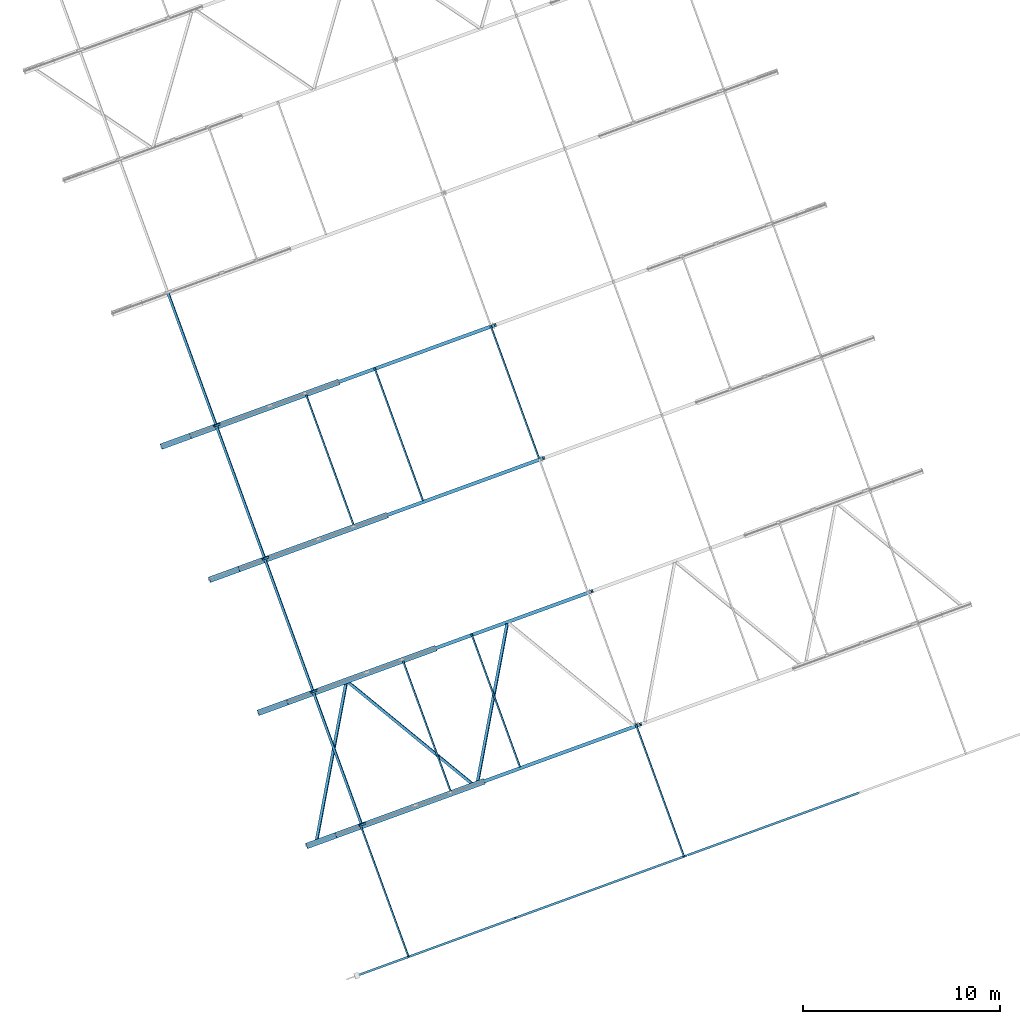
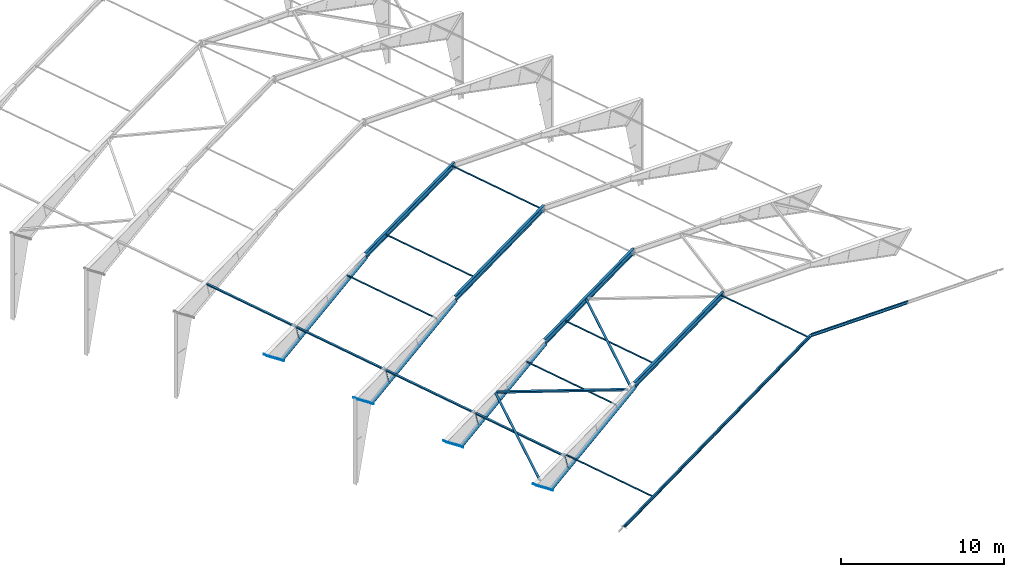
# One storey, part 1 of 17: 21 beams, 16 members, 7 openings, 37 elements without a shape of their own.
"""IFC4 building model written with IfcOpenShell, lengths in millimetres."""

from ifc_helpers import new_model, si_unit, direction, frame, origin_with_axes, place, context, subcontext, project, spatial, line, indexed_curve, outline, extrude, material, element, aggregate, save


model = new_model("IFC4")

# Units and contexts
model_context = context("Model", 3, precision=0.2, world=frame((203566.813, 116264.779, 0.0), z_axis=(0.0, 0.0, 1.0), x_axis=(1.0, 0.0, 0.0)), true_north=direction((-0.9396138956, -0.3422363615)))
body_context = subcontext(model_context, "Body", "Model", "MODEL_VIEW")
ifc_project = project(units=[si_unit("LENGTHUNIT", "METRE", prefix="MILLI"), si_unit("AREAUNIT", "SQUARE_METRE"), si_unit("VOLUMEUNIT", "CUBIC_METRE"), si_unit("MASSUNIT", "GRAM", prefix="KILO"), si_unit("TIMEUNIT", "SECOND"), si_unit("PLANEANGLEUNIT", "RADIAN"), si_unit("SOLIDANGLEUNIT", "STERADIAN"), si_unit("THERMODYNAMICTEMPERATUREUNIT", "DEGREE_CELSIUS"), si_unit("LUMINOUSINTENSITYUNIT", "LUMEN")], contexts=[model_context])

# Site, building, storey
site_placement = place(None, origin_with_axes())
site = spatial("IfcSite", under=ifc_project, at=site_placement, Name="Nobelprojektet", CompositionType="ELEMENT")
building_placement = place(site_placement, origin_with_axes())
building = spatial("IfcBuilding", under=site, at=building_placement, Name="Hall B", CompositionType="ELEMENT")
storey_placement = place(building_placement, frame((0.0, 0.0, 136000.0), z_axis=(0.0, 0.0, 1.0), x_axis=(1.0, 0.0, 0.0)))
storey = spatial("IfcBuildingStorey", under=building, at=storey_placement, Name="Plan_2", CompositionType="ELEMENT", Elevation=136000.0)

# Assembly, member
assembly_1_placement = place(storey_placement, frame((148026.07933, 119677.97674, 3646.88866), z_axis=(-0.5718109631, -0.2082717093, -0.7935081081), x_axis=(0.7455910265, 0.2715679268, -0.6085596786)))
assembly_1 = element("IfcElementAssembly", 1, at=assembly_1_placement, inside=storey, Name="BEF. STOMME", PredefinedType="NOTDEFINED")
ifc_material = material(Name="S355J2", Category="STEEL")
member_1_placement = place(assembly_1_placement, origin_with_axes())
member_1 = element("IfcMember", 2, at=member_1_placement, material=ifc_material, Name="BEF. STOMME", PredefinedType="NOTDEFINED", context=body_context, shape_type="SolidModel", body=[
    extrude(outline(indexed_curve([(-12.5, -150.0), (12.5, -150.0), (12.5, 150.0), (-12.5, 150.0)], segments=[line(1, 2, 3, 4, 1)])), frame((0.0, 0.0, 0.0), z_axis=(-1.0, 0.0, 0.0), x_axis=(0.0, 0.0, 1.0)), (0.0, 0.0, -1.0), 1980.00858),
])
aggregate(assembly_1, [member_1])

assembly_2_placement = place(storey_placement, frame((148040.37085, 119683.18217, 3666.72866), z_axis=(-0.5718109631, -0.2082717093, -0.7935081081), x_axis=(0.7455910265, 0.2715679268, -0.6085596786)))
assembly_2 = element("IfcElementAssembly", 3, at=assembly_2_placement, inside=storey, Name="BEF. STOMME", PredefinedType="NOTDEFINED")
member_2_placement = place(assembly_2_placement, origin_with_axes())
member_2 = element("IfcMember", 4, at=member_2_placement, material=ifc_material, Name="BEF. STOMME", PredefinedType="NOTDEFINED", context=body_context, shape_type="SolidModel", body=[
    extrude(outline(indexed_curve([(-12.5, -150.0), (12.5, -150.0), (12.5, 150.0), (-12.5, 150.0)], segments=[line(1, 2, 3, 4, 1)])), frame((0.0, 0.0, 0.0), z_axis=(-1.0, 0.0, 0.0), x_axis=(0.0, 0.0, 1.0)), (0.0, 0.0, -1.0), 1980.00858),
])
aggregate(assembly_2, [member_2])

assembly_3_placement = place(storey_placement, frame((149501.39359, 120215.33304, 2495.62394), z_axis=(0.3620433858, 0.131867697, -0.9227868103), x_axis=(0.8670630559, 0.315811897, 0.385310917)))
assembly_3 = element("IfcElementAssembly", 5, at=assembly_3_placement, inside=storey, Name="BEF. STOMME", PredefinedType="NOTDEFINED")
member_3_placement = place(assembly_3_placement, origin_with_axes())
member_3 = element("IfcMember", 6, at=member_3_placement, material=ifc_material, Name="BEF. STOMME", PredefinedType="NOTDEFINED", context=body_context, shape_type="SolidModel", body=[
    extrude(outline(indexed_curve([(-10.0, -150.0), (10.0, -150.0), (10.0, 150.0), (-10.0, 150.0)], segments=[line(1, 2, 3, 4, 1)])), frame((0.0, 0.0, 0.0), z_axis=(-1.0, 0.0, 0.0), x_axis=(0.0, 0.0, 1.0)), (0.0, 0.0, -1.0), 8726.68705),
])
aggregate(assembly_3, [member_3])

# Assembly, beam, voiding feature
assembly_4_placement = place(storey_placement, frame((157020.5335, 122954.04255, 6043.94851), z_axis=(-0.3422371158, 0.9396136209, 1.3e-09), x_axis=(0.9075966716, 0.3305755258, 0.2588206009)))
assembly_4 = element("IfcElementAssembly", 7, at=assembly_4_placement, inside=storey, Name="BEF. STOMME", PredefinedType="NOTDEFINED")
beam_1_placement = place(assembly_4_placement, origin_with_axes())
beam_1 = element("IfcBeam", 8, at=beam_1_placement, material=ifc_material, Name="BEF. STOMME", PredefinedType="NOTDEFINED", context=body_context, shape_type="SolidModel", body=[
    extrude(outline(indexed_curve([(-90.0, -200.0), (90.0, -200.0), (90.0, -186.5), (4.3, -186.5), (4.3, 186.5), (90.0, 186.5), (90.0, 200.0), (-90.0, 200.0), (-90.0, 186.5), (-4.3, 186.5), (-4.3, -186.5), (-90.0, -186.5)], segments=[line(1, 2, 3, 4, 5, 6, 7, 8, 9, 10, 11, 12, 1)])), frame((0.0, 0.0, 0.0), z_axis=(-1.0, 0.0, 0.0), x_axis=(0.0, 0.0, 1.0)), (0.0, 0.0, -1.0), 8807.09025),
])
voiding_feature_1_placement = place(beam_1_placement, frame((110134.3007, 31678.17553, 70312.93906), z_axis=(0.9075574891, 0.2431808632, -0.3423484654), x_axis=(0.252427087, 0.3355889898, 0.9075574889)))
element("IfcVoidingFeature", 9, at=voiding_feature_1_placement, cuts=beam_1, Name="CUTPART", PredefinedType="HOLE", context=body_context, shape_type="SolidModel", body=[
    extrude(outline(indexed_curve([(0.0, 0.0), (180.00355, 0.0), (71.46317, 405.07559), (0.0, 400.0)], segments=[line(1, 2, 3, 4, 1)])), frame((0.0, 0.0, 92.5), z_axis=(0.0, 0.0, 1.0), x_axis=(1.0, 0.0, 0.0)), (0.0, 0.0, -1.0), 185.0),
])
aggregate(assembly_4, [beam_1])

# Assembly, member
assembly_5_placement = place(storey_placement, frame((151021.80288, 120822.32774, 3191.0742), z_axis=(0.9075966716, 0.3305755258, 0.2588206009), x_axis=(-0.2431885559, -0.088576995, 0.9659262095)))
assembly_5 = element("IfcElementAssembly", 10, at=assembly_5_placement, inside=storey, Name="BEF. STOMME", PredefinedType="NOTDEFINED")
member_4_placement = place(assembly_5_placement, origin_with_axes())
member_4 = element("IfcMember", 11, at=member_4_placement, material=ifc_material, Name="BEF. STOMME", PredefinedType="NOTDEFINED", context=body_context, shape_type="SolidModel", body=[
    extrude(outline(indexed_curve([(-7.5, -50.0), (7.5, -50.0), (7.5, 50.0), (-7.5, 50.0)], segments=[line(1, 2, 3, 4, 1)])), frame((0.0, 0.0, 0.0), z_axis=(-1.0, 0.0, 0.0), x_axis=(0.0, 0.0, 1.0)), (0.0, 0.0, -1.0), 1288.01813),
])
aggregate(assembly_5, [member_4])

assembly_6_placement = place(storey_placement, frame((145561.97196, 126443.1943, 3646.88866), z_axis=(-0.5718109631, -0.2082717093, -0.7935081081), x_axis=(0.7455910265, 0.2715679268, -0.6085596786)))
assembly_6 = element("IfcElementAssembly", 12, at=assembly_6_placement, inside=storey, Name="BEF. STOMME", PredefinedType="NOTDEFINED")
member_5_placement = place(assembly_6_placement, origin_with_axes())
member_5 = element("IfcMember", 13, at=member_5_placement, material=ifc_material, Name="BEF. STOMME", PredefinedType="NOTDEFINED", context=body_context, shape_type="SolidModel", body=[
    extrude(outline(indexed_curve([(-12.5, -150.0), (12.5, -150.0), (12.5, 150.0), (-12.5, 150.0)], segments=[line(1, 2, 3, 4, 1)])), frame((0.0, 0.0, 0.0), z_axis=(-1.0, 0.0, 0.0), x_axis=(0.0, 0.0, 1.0)), (0.0, 0.0, -1.0), 1980.00858),
])
aggregate(assembly_6, [member_5])

assembly_7_placement = place(storey_placement, frame((145576.26349, 126448.39973, 3666.72866), z_axis=(-0.5718109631, -0.2082717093, -0.7935081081), x_axis=(0.7455910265, 0.2715679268, -0.6085596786)))
assembly_7 = element("IfcElementAssembly", 14, at=assembly_7_placement, inside=storey, Name="BEF. STOMME", PredefinedType="NOTDEFINED")
member_6_placement = place(assembly_7_placement, origin_with_axes())
member_6 = element("IfcMember", 15, at=member_6_placement, material=ifc_material, Name="BEF. STOMME", PredefinedType="NOTDEFINED", context=body_context, shape_type="SolidModel", body=[
    extrude(outline(indexed_curve([(-12.5, -150.0), (12.5, -150.0), (12.5, 150.0), (-12.5, 150.0)], segments=[line(1, 2, 3, 4, 1)])), frame((0.0, 0.0, 0.0), z_axis=(-1.0, 0.0, 0.0), x_axis=(0.0, 0.0, 1.0)), (0.0, 0.0, -1.0), 1980.00858),
])
aggregate(assembly_7, [member_6])

assembly_8_placement = place(storey_placement, frame((147037.28622, 126980.5506, 2495.62394), z_axis=(0.3620433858, 0.131867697, -0.9227868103), x_axis=(0.8670630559, 0.315811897, 0.385310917)))
assembly_8 = element("IfcElementAssembly", 16, at=assembly_8_placement, inside=storey, Name="BEF. STOMME", PredefinedType="NOTDEFINED")
member_7_placement = place(assembly_8_placement, origin_with_axes())
member_7 = element("IfcMember", 17, at=member_7_placement, material=ifc_material, Name="BEF. STOMME", PredefinedType="NOTDEFINED", context=body_context, shape_type="SolidModel", body=[
    extrude(outline(indexed_curve([(-10.0, -150.0), (10.0, -150.0), (10.0, 150.0), (-10.0, 150.0)], segments=[line(1, 2, 3, 4, 1)])), frame((0.0, 0.0, 0.0), z_axis=(-1.0, 0.0, 0.0), x_axis=(0.0, 0.0, 1.0)), (0.0, 0.0, -1.0), 8726.68705),
])
aggregate(assembly_8, [member_7])

# Assembly, beam, voiding feature
assembly_9_placement = place(storey_placement, frame((154556.42613, 129719.26011, 6043.94851), z_axis=(-0.3422371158, 0.9396136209, 1.3e-09), x_axis=(0.9075966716, 0.3305755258, 0.2588206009)))
assembly_9 = element("IfcElementAssembly", 18, at=assembly_9_placement, inside=storey, Name="BEF. STOMME", PredefinedType="NOTDEFINED")
beam_2_placement = place(assembly_9_placement, origin_with_axes())
beam_2 = element("IfcBeam", 19, at=beam_2_placement, material=ifc_material, Name="BEF. STOMME", PredefinedType="NOTDEFINED", context=body_context, shape_type="SolidModel", body=[
    extrude(outline(indexed_curve([(-90.0, -200.0), (90.0, -200.0), (90.0, -186.5), (4.3, -186.5), (4.3, 186.5), (90.0, 186.5), (90.0, 200.0), (-90.0, 200.0), (-90.0, 186.5), (-4.3, 186.5), (-4.3, -186.5), (-90.0, -186.5)], segments=[line(1, 2, 3, 4, 5, 6, 7, 8, 9, 10, 11, 12, 1)])), frame((0.0, 0.0, 0.0), z_axis=(-1.0, 0.0, 0.0), x_axis=(0.0, 0.0, 1.0)), (0.0, 0.0, -1.0), 8807.09025),
])
voiding_feature_2_placement = place(beam_2_placement, frame((116668.71462, 33429.07773, 60648.03011), z_axis=(0.9075574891, 0.2431808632, -0.3423484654), x_axis=(0.252427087, 0.3355889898, 0.9075574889)))
element("IfcVoidingFeature", 20, at=voiding_feature_2_placement, cuts=beam_2, Name="CUTPART", PredefinedType="HOLE", context=body_context, shape_type="SolidModel", body=[
    extrude(outline(indexed_curve([(0.0, 0.0), (180.00355, 0.0), (71.46317, 405.07559), (0.0, 400.0)], segments=[line(1, 2, 3, 4, 1)])), frame((0.0, 0.0, 92.5), z_axis=(0.0, 0.0, 1.0), x_axis=(1.0, 0.0, 0.0)), (0.0, 0.0, -1.0), 185.0),
])
aggregate(assembly_9, [beam_2])

# Assembly, member
assembly_10_placement = place(storey_placement, frame((148557.69551, 127587.5453, 3191.0742), z_axis=(0.9075966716, 0.3305755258, 0.2588206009), x_axis=(-0.2431885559, -0.088576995, 0.9659262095)))
assembly_10 = element("IfcElementAssembly", 21, at=assembly_10_placement, inside=storey, Name="BEF. STOMME", PredefinedType="NOTDEFINED")
member_8_placement = place(assembly_10_placement, origin_with_axes())
member_8 = element("IfcMember", 22, at=member_8_placement, material=ifc_material, Name="BEF. STOMME", PredefinedType="NOTDEFINED", context=body_context, shape_type="SolidModel", body=[
    extrude(outline(indexed_curve([(-7.5, -50.0), (7.5, -50.0), (7.5, 50.0), (-7.5, 50.0)], segments=[line(1, 2, 3, 4, 1)])), frame((0.0, 0.0, 0.0), z_axis=(-1.0, 0.0, 0.0), x_axis=(0.0, 0.0, 1.0)), (0.0, 0.0, -1.0), 1288.01813),
])
aggregate(assembly_10, [member_8])

assembly_11_placement = place(storey_placement, frame((140633.75707, 139973.6309, 3646.88866), z_axis=(-0.5718109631, -0.2082717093, -0.7935081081), x_axis=(0.7455910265, 0.2715679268, -0.6085596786)))
assembly_11 = element("IfcElementAssembly", 23, at=assembly_11_placement, inside=storey, Name="BEF. STOMME", PredefinedType="NOTDEFINED")
member_9_placement = place(assembly_11_placement, origin_with_axes())
member_9 = element("IfcMember", 24, at=member_9_placement, material=ifc_material, Name="BEF. STOMME", PredefinedType="NOTDEFINED", context=body_context, shape_type="SolidModel", body=[
    extrude(outline(indexed_curve([(-12.5, -150.0), (12.5, -150.0), (12.5, 150.0), (-12.5, 150.0)], segments=[line(1, 2, 3, 4, 1)])), frame((0.0, 0.0, 0.0), z_axis=(-1.0, 0.0, 0.0), x_axis=(0.0, 0.0, 1.0)), (0.0, 0.0, -1.0), 1980.00858),
])
aggregate(assembly_11, [member_9])

assembly_12_placement = place(storey_placement, frame((140648.0486, 139978.83632, 3666.72866), z_axis=(-0.5718109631, -0.2082717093, -0.7935081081), x_axis=(0.7455910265, 0.2715679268, -0.6085596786)))
assembly_12 = element("IfcElementAssembly", 25, at=assembly_12_placement, inside=storey, Name="BEF. STOMME", PredefinedType="NOTDEFINED")
member_10_placement = place(assembly_12_placement, origin_with_axes())
member_10 = element("IfcMember", 26, at=member_10_placement, material=ifc_material, Name="BEF. STOMME", PredefinedType="NOTDEFINED", context=body_context, shape_type="SolidModel", body=[
    extrude(outline(indexed_curve([(-12.5, -150.0), (12.5, -150.0), (12.5, 150.0), (-12.5, 150.0)], segments=[line(1, 2, 3, 4, 1)])), frame((0.0, 0.0, 0.0), z_axis=(-1.0, 0.0, 0.0), x_axis=(0.0, 0.0, 1.0)), (0.0, 0.0, -1.0), 1980.00858),
])
aggregate(assembly_12, [member_10])

assembly_13_placement = place(storey_placement, frame((142109.07133, 140510.98719, 2495.62394), z_axis=(0.3620433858, 0.131867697, -0.9227868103), x_axis=(0.8670630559, 0.315811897, 0.385310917)))
assembly_13 = element("IfcElementAssembly", 27, at=assembly_13_placement, inside=storey, Name="BEF. STOMME", PredefinedType="NOTDEFINED")
member_11_placement = place(assembly_13_placement, origin_with_axes())
member_11 = element("IfcMember", 28, at=member_11_placement, material=ifc_material, Name="BEF. STOMME", PredefinedType="NOTDEFINED", context=body_context, shape_type="SolidModel", body=[
    extrude(outline(indexed_curve([(-10.0, -150.0), (10.0, -150.0), (10.0, 150.0), (-10.0, 150.0)], segments=[line(1, 2, 3, 4, 1)])), frame((0.0, 0.0, 0.0), z_axis=(-1.0, 0.0, 0.0), x_axis=(0.0, 0.0, 1.0)), (0.0, 0.0, -1.0), 8726.68705),
])
aggregate(assembly_13, [member_11])

# Assembly, beam, voiding feature
assembly_14_placement = place(storey_placement, frame((149628.21124, 143249.6967, 6043.94851), z_axis=(-0.3422371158, 0.9396136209, 1.3e-09), x_axis=(0.9075966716, 0.3305755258, 0.2588206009)))
assembly_14 = element("IfcElementAssembly", 29, at=assembly_14_placement, inside=storey, Name="BEF. STOMME", PredefinedType="NOTDEFINED")
beam_3_placement = place(assembly_14_placement, origin_with_axes())
beam_3 = element("IfcBeam", 30, at=beam_3_placement, material=ifc_material, Name="BEF. STOMME", PredefinedType="NOTDEFINED", context=body_context, shape_type="SolidModel", body=[
    extrude(outline(indexed_curve([(-90.0, -200.0), (90.0, -200.0), (90.0, -186.5), (4.3, -186.5), (4.3, 186.5), (90.0, 186.5), (90.0, 200.0), (-90.0, 200.0), (-90.0, 186.5), (-4.3, 186.5), (-4.3, -186.5), (-90.0, -186.5)], segments=[line(1, 2, 3, 4, 5, 6, 7, 8, 9, 10, 11, 12, 1)])), frame((0.0, 0.0, 0.0), z_axis=(-1.0, 0.0, 0.0), x_axis=(0.0, 0.0, 1.0)), (0.0, 0.0, -1.0), 8807.09025),
])
voiding_feature_3_placement = place(beam_3_placement, frame((123203.12855, 35179.97993, 50983.12117), z_axis=(0.9075574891, 0.2431808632, -0.3423484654), x_axis=(0.252427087, 0.3355889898, 0.9075574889)))
element("IfcVoidingFeature", 31, at=voiding_feature_3_placement, cuts=beam_3, Name="CUTPART", PredefinedType="HOLE", context=body_context, shape_type="SolidModel", body=[
    extrude(outline(indexed_curve([(0.0, 0.0), (180.00355, 0.0), (71.46317, 405.07559), (0.0, 400.0)], segments=[line(1, 2, 3, 4, 1)])), frame((0.0, 0.0, 92.5), z_axis=(0.0, 0.0, 1.0), x_axis=(1.0, 0.0, 0.0)), (0.0, 0.0, -1.0), 185.0),
])
aggregate(assembly_14, [beam_3])

# Assembly, member
assembly_15_placement = place(storey_placement, frame((143629.48062, 141117.9819, 3191.0742), z_axis=(0.9075966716, 0.3305755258, 0.2588206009), x_axis=(-0.2431885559, -0.088576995, 0.9659262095)))
assembly_15 = element("IfcElementAssembly", 32, at=assembly_15_placement, inside=storey, Name="BEF. STOMME", PredefinedType="NOTDEFINED")
member_12_placement = place(assembly_15_placement, origin_with_axes())
member_12 = element("IfcMember", 33, at=member_12_placement, material=ifc_material, Name="BEF. STOMME", PredefinedType="NOTDEFINED", context=body_context, shape_type="SolidModel", body=[
    extrude(outline(indexed_curve([(-7.5, -50.0), (7.5, -50.0), (7.5, 50.0), (-7.5, 50.0)], segments=[line(1, 2, 3, 4, 1)])), frame((0.0, 0.0, 0.0), z_axis=(-1.0, 0.0, 0.0), x_axis=(0.0, 0.0, 1.0)), (0.0, 0.0, -1.0), 1288.01813),
])
aggregate(assembly_15, [member_12])

# Assembly, beam, voiding feature
assembly_16_placement = place(storey_placement, frame((150505.54016, 113061.95204, 3578.63666), z_axis=(-0.3422371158, 0.9396136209, 1.3e-09), x_axis=(0.9075966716, 0.3305755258, 0.2588206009)))
assembly_16 = element("IfcElementAssembly", 34, at=assembly_16_placement, inside=storey, Name="BEF. STOMME", PredefinedType="NOTDEFINED")
beam_4_placement = place(assembly_16_placement, origin_with_axes())
beam_4 = element("IfcBeam", 35, at=beam_4_placement, material=ifc_material, Name="BEF. STOMME", PredefinedType="NOTDEFINED", context=body_context, shape_type="SolidModel", body=[
    extrude(outline(indexed_curve([(-55.0, -110.0), (55.0, -110.0), (55.0, -100.8), (2.95, -100.8), (2.95, 100.8), (55.0, 100.8), (55.0, 110.0), (-55.0, 110.0), (-55.0, 100.8), (-2.95, 100.8), (-2.95, -100.8), (-55.0, -100.8)], segments=[line(1, 2, 3, 4, 5, 6, 7, 8, 9, 10, 11, 12, 1)])), frame((0.0, 0.0, 0.0), z_axis=(-1.0, 0.0, 0.0), x_axis=(0.0, 0.0, 1.0)), (0.0, 0.0, -1.0), 8966.09461),
])
voiding_feature_4_placement = place(beam_4_placement, frame((0.00035, 110.0, 0.0), z_axis=(0.0, 0.0, -1.0), x_axis=(1.0, 0.0, 0.0)))
element("IfcVoidingFeature", 36, at=voiding_feature_4_placement, cuts=beam_4, Name="CUTPART", PredefinedType="HOLE", context=body_context, shape_type="SolidModel", body=[
    extrude(outline(indexed_curve([(0.0, 0.0), (168.81121, 0.0), (0.0, 220.0)], segments=[line(1, 2, 3, 1)])), frame((0.0, 0.0, 57.5), z_axis=(0.0, 0.0, 1.0), x_axis=(1.0, 0.0, 0.0)), (0.0, 0.0, -1.0), 115.0),
])
aggregate(assembly_16, [beam_4])

assembly_17_placement = place(storey_placement, frame((158670.36905, 116035.84197, 5907.00664), z_axis=(-0.3422371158, 0.9396136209, 1.3e-09), x_axis=(0.9075966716, 0.3305755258, 0.2588206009)))
assembly_17 = element("IfcElementAssembly", 37, at=assembly_17_placement, inside=storey, Name="BEF. STOMME", PredefinedType="NOTDEFINED")
beam_5_placement = place(assembly_17_placement, origin_with_axes())
beam_5 = element("IfcBeam", 38, at=beam_5_placement, material=ifc_material, Name="BEF. STOMME", PredefinedType="NOTDEFINED", context=body_context, shape_type="SolidModel", body=[
    extrude(outline(indexed_curve([(-55.0, -110.0), (55.0, -110.0), (55.0, -100.8), (2.95, -100.8), (2.95, 100.8), (55.0, 100.8), (55.0, 110.0), (-55.0, 110.0), (-55.0, 100.8), (-2.95, 100.8), (-2.95, -100.8), (-55.0, -100.8)], segments=[line(1, 2, 3, 4, 5, 6, 7, 8, 9, 10, 11, 12, 1)])), frame((0.0, 0.0, 0.0), z_axis=(-1.0, 0.0, 0.0), x_axis=(0.0, 0.0, 1.0)), (0.0, 0.0, -1.0), 9599.25787),
])
voiding_feature_5_placement = place(beam_5_placement, frame((9599.25787, -110.0, -1e-05), z_axis=(0.0, 0.0, -1.0), x_axis=(-0.258818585, 0.9659259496, -3e-10)))
element("IfcVoidingFeature", 39, at=voiding_feature_5_placement, cuts=beam_5, Name="CUTPART", PredefinedType="HOLE", context=body_context, shape_type="SolidModel", body=[
    extrude(outline(indexed_curve([(0.0, 0.0), (227.75553, 0.0), (212.50371, 56.94009)], segments=[line(1, 2, 3, 1)])), frame((0.0, 0.0, 57.5), z_axis=(0.0, 0.0, 1.0), x_axis=(1.0, 0.0, 0.0)), (0.0, 0.0, -1.0), 115.0),
])
aggregate(assembly_17, [beam_5])

assembly_18_placement = place(storey_placement, frame((176078.97162, 122376.6078, 5907.00664), z_axis=(0.3422371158, -0.9396136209, 1.3e-09), x_axis=(-0.9075966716, -0.3305755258, 0.2588206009)))
assembly_18 = element("IfcElementAssembly", 40, at=assembly_18_placement, inside=storey, Name="BEF. STOMME", PredefinedType="NOTDEFINED")
beam_6_placement = place(assembly_18_placement, origin_with_axes())
beam_6 = element("IfcBeam", 41, at=beam_6_placement, material=ifc_material, Name="BEF. STOMME", PredefinedType="NOTDEFINED", context=body_context, shape_type="SolidModel", body=[
    extrude(outline(indexed_curve([(-55.0, -110.0), (55.0, -110.0), (55.0, -100.8), (2.95, -100.8), (2.95, 100.8), (55.0, 100.8), (55.0, 110.0), (-55.0, 110.0), (-55.0, 100.8), (-2.95, 100.8), (-2.95, -100.8), (-55.0, -100.8)], segments=[line(1, 2, 3, 4, 5, 6, 7, 8, 9, 10, 11, 12, 1)])), frame((0.0, 0.0, 0.0), z_axis=(-1.0, 0.0, 0.0), x_axis=(0.0, 0.0, 1.0)), (0.0, 0.0, -1.0), 9599.25787),
])
voiding_feature_6_placement = place(beam_6_placement, frame((9599.25787, -110.0, 0.00069), z_axis=(0.0, 0.0, -1.0), x_axis=(-0.258818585, 0.9659259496, -3e-10)))
element("IfcVoidingFeature", 42, at=voiding_feature_6_placement, cuts=beam_6, Name="CUTPART", PredefinedType="HOLE", context=body_context, shape_type="SolidModel", body=[
    extrude(outline(indexed_curve([(0.0, 0.0), (227.75553, 0.0), (212.50371, 56.94009)], segments=[line(1, 2, 3, 1)])), frame((0.0, 0.0, 57.5), z_axis=(0.0, 0.0, 1.0), x_axis=(1.0, 0.0, 0.0)), (0.0, 0.0, -1.0), 115.0),
])
aggregate(assembly_18, [beam_6])

# Assembly, beam
assembly_19_placement = place(storey_placement, frame((167212.00113, 119146.97559, 8316.31212), z_axis=(-0.2431885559, -0.088576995, 0.9659262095), x_axis=(-0.3422371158, 0.9396136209, 1.3e-09)))
assembly_19 = element("IfcElementAssembly", 43, at=assembly_19_placement, inside=storey, Name="BEF. STOMME", PredefinedType="NOTDEFINED")
beam_7_placement = place(assembly_19_placement, origin_with_axes())
beam_7 = element("IfcBeam", 44, at=beam_7_placement, material=ifc_material, Name="BEF. STOMME", PredefinedType="NOTDEFINED", context=body_context, shape_type="SolidModel", body=[
    extrude(outline(indexed_curve([(-40.0, -40.0), (40.0, -40.0), (40.0, 40.0), (-40.0, 40.0)], segments=[line(1, 2, 3, 4, 1)]), holes=[indexed_curve([(-36.0, -36.0), (-36.0, 36.0), (36.0, 36.0), (36.0, -36.0)], segments=[line(1, 2, 3, 4, 1)])]), frame((0.0, 0.0, 0.0), z_axis=(-1.0, 0.0, 0.0), x_axis=(0.0, 0.0, 1.0)), (0.0, 0.0, -1.0), 7199.99997),
])
aggregate(assembly_19, [beam_7])

assembly_20_placement = place(storey_placement, frame((153211.61724, 114047.59123, 4350.33212), z_axis=(-0.2431885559, -0.088576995, 0.9659262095), x_axis=(-0.3422371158, 0.9396136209, 1.3e-09)))
assembly_20 = element("IfcElementAssembly", 45, at=assembly_20_placement, inside=storey, Name="BEF. STOMME", PredefinedType="NOTDEFINED")
beam_8_placement = place(assembly_20_placement, origin_with_axes())
beam_8 = element("IfcBeam", 46, at=beam_8_placement, material=ifc_material, Name="BEF. STOMME", PredefinedType="NOTDEFINED", context=body_context, shape_type="SolidModel", body=[
    extrude(outline(indexed_curve([(-40.0, -40.0), (40.0, -40.0), (40.0, 40.0), (-40.0, 40.0)], segments=[line(1, 2, 3, 4, 1)]), holes=[indexed_curve([(-36.0, -36.0), (-36.0, 36.0), (36.0, 36.0), (36.0, -36.0)], segments=[line(1, 2, 3, 4, 1)])]), frame((0.0, 0.0, 0.0), z_axis=(-1.0, 0.0, 0.0), x_axis=(0.0, 0.0, 1.0)), (0.0, 0.0, -1.0), 7199.99997),
])
aggregate(assembly_20, [beam_8])

assembly_21_placement = place(storey_placement, frame((150831.82708, 120763.7002, 4144.4785), z_axis=(-0.2431885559, -0.088576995, 0.9659262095), x_axis=(-0.3422371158, 0.9396136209, 1.3e-09)))
assembly_21 = element("IfcElementAssembly", 47, at=assembly_21_placement, inside=storey, Name="BEF. STOMME", PredefinedType="NOTDEFINED")
beam_9_placement = place(assembly_21_placement, origin_with_axes())
beam_9 = element("IfcBeam", 48, at=beam_9_placement, material=ifc_material, Name="BEF. STOMME", PredefinedType="NOTDEFINED", context=body_context, shape_type="SolidModel", body=[
    extrude(outline(indexed_curve([(-60.0, -60.0), (60.0, -60.0), (60.0, 60.0), (-60.0, 60.0)], segments=[line(1, 2, 3, 4, 1)]), holes=[indexed_curve([(-55.0, -55.0), (-55.0, 55.0), (55.0, 55.0), (55.0, -55.0)], segments=[line(1, 2, 3, 4, 1)])]), frame((0.0, 0.0, 0.0), z_axis=(-1.0, 0.0, 0.0), x_axis=(0.0, 0.0, 1.0)), (0.0, 0.0, -1.0), 7199.99997),
])
aggregate(assembly_21, [beam_9])

assembly_22_placement = place(storey_placement, frame((155364.34605, 122414.58754, 5452.54212), z_axis=(-0.2431885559, -0.088576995, 0.9659262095), x_axis=(-0.3422371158, 0.9396136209, 1.3e-09)))
assembly_22 = element("IfcElementAssembly", 49, at=assembly_22_placement, inside=storey, Name="BEF. STOMME", PredefinedType="NOTDEFINED")
beam_10_placement = place(assembly_22_placement, origin_with_axes())
beam_10 = element("IfcBeam", 50, at=beam_10_placement, material=ifc_material, Name="BEF. STOMME", PredefinedType="NOTDEFINED", context=body_context, shape_type="SolidModel", body=[
    extrude(outline(indexed_curve([(-40.0, -40.0), (40.0, -40.0), (40.0, 40.0), (-40.0, 40.0)], segments=[line(1, 2, 3, 4, 1)]), holes=[indexed_curve([(-36.0, -36.0), (-36.0, 36.0), (36.0, 36.0), (36.0, -36.0)], segments=[line(1, 2, 3, 4, 1)])]), frame((0.0, 0.0, 0.0), z_axis=(-1.0, 0.0, 0.0), x_axis=(0.0, 0.0, 1.0)), (0.0, 0.0, -1.0), 7199.99997),
])
aggregate(assembly_22, [beam_10])

assembly_23_placement = place(storey_placement, frame((158874.57341, 123693.1238, 6505.31212), z_axis=(-0.2431885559, -0.088576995, 0.9659262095), x_axis=(-0.3422371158, 0.9396136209, 1.3e-09)))
assembly_23 = element("IfcElementAssembly", 51, at=assembly_23_placement, inside=storey, Name="BEF. STOMME", PredefinedType="NOTDEFINED")
beam_11_placement = place(assembly_23_placement, origin_with_axes())
beam_11 = element("IfcBeam", 52, at=beam_11_placement, material=ifc_material, Name="BEF. STOMME", PredefinedType="NOTDEFINED", context=body_context, shape_type="SolidModel", body=[
    extrude(outline(indexed_curve([(-40.0, -40.0), (40.0, -40.0), (40.0, 40.0), (-40.0, 40.0)], segments=[line(1, 2, 3, 4, 1)]), holes=[indexed_curve([(-36.0, -36.0), (-36.0, 36.0), (36.0, 36.0), (36.0, -36.0)], segments=[line(1, 2, 3, 4, 1)])]), frame((0.0, 0.0, 0.0), z_axis=(-1.0, 0.0, 0.0), x_axis=(0.0, 0.0, 1.0)), (0.0, 0.0, -1.0), 7199.99997),
])
aggregate(assembly_23, [beam_11])

assembly_24_placement = place(storey_placement, frame((159845.34721, 139372.15878, 8316.31212), z_axis=(-0.2431885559, -0.088576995, 0.9659262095), x_axis=(-0.3422371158, 0.9396136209, 1.3e-09)))
assembly_24 = element("IfcElementAssembly", 53, at=assembly_24_placement, inside=storey, Name="BEF. STOMME", PredefinedType="NOTDEFINED")
beam_12_placement = place(assembly_24_placement, origin_with_axes())
beam_12 = element("IfcBeam", 54, at=beam_12_placement, material=ifc_material, Name="BEF. STOMME", PredefinedType="NOTDEFINED", context=body_context, shape_type="SolidModel", body=[
    extrude(outline(indexed_curve([(-40.0, -40.0), (40.0, -40.0), (40.0, 40.0), (-40.0, 40.0)], segments=[line(1, 2, 3, 4, 1)]), holes=[indexed_curve([(-36.0, -36.0), (-36.0, 36.0), (36.0, 36.0), (36.0, -36.0)], segments=[line(1, 2, 3, 4, 1)])]), frame((0.0, 0.0, 0.0), z_axis=(-1.0, 0.0, 0.0), x_axis=(0.0, 0.0, 1.0)), (0.0, 0.0, -1.0), 7199.99997),
])
aggregate(assembly_24, [beam_12])

assembly_25_placement = place(storey_placement, frame((145903.61261, 134294.13634, 4144.4785), z_axis=(-0.2431885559, -0.088576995, 0.9659262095), x_axis=(-0.3422371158, 0.9396136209, 1.3e-09)))
assembly_25 = element("IfcElementAssembly", 55, at=assembly_25_placement, inside=storey, Name="BEF. STOMME", PredefinedType="NOTDEFINED")
beam_13_placement = place(assembly_25_placement, origin_with_axes())
beam_13 = element("IfcBeam", 56, at=beam_13_placement, material=ifc_material, Name="BEF. STOMME", PredefinedType="NOTDEFINED", context=body_context, shape_type="SolidModel", body=[
    extrude(outline(indexed_curve([(-60.0, -60.0), (60.0, -60.0), (60.0, 60.0), (-60.0, 60.0)], segments=[line(1, 2, 3, 4, 1)]), holes=[indexed_curve([(-55.0, -55.0), (-55.0, 55.0), (55.0, 55.0), (55.0, -55.0)], segments=[line(1, 2, 3, 4, 1)])]), frame((0.0, 0.0, 0.0), z_axis=(-1.0, 0.0, 0.0), x_axis=(0.0, 0.0, 1.0)), (0.0, 0.0, -1.0), 7199.99997),
])
aggregate(assembly_25, [beam_13])

assembly_26_placement = place(storey_placement, frame((150436.13158, 135945.02368, 5452.54212), z_axis=(-0.2431885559, -0.088576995, 0.9659262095), x_axis=(-0.3422371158, 0.9396136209, 1.3e-09)))
assembly_26 = element("IfcElementAssembly", 57, at=assembly_26_placement, inside=storey, Name="BEF. STOMME", PredefinedType="NOTDEFINED")
beam_14_placement = place(assembly_26_placement, origin_with_axes())
beam_14 = element("IfcBeam", 58, at=beam_14_placement, material=ifc_material, Name="BEF. STOMME", PredefinedType="NOTDEFINED", context=body_context, shape_type="SolidModel", body=[
    extrude(outline(indexed_curve([(-40.0, -40.0), (40.0, -40.0), (40.0, 40.0), (-40.0, 40.0)], segments=[line(1, 2, 3, 4, 1)]), holes=[indexed_curve([(-36.0, -36.0), (-36.0, 36.0), (36.0, 36.0), (36.0, -36.0)], segments=[line(1, 2, 3, 4, 1)])]), frame((0.0, 0.0, 0.0), z_axis=(-1.0, 0.0, 0.0), x_axis=(0.0, 0.0, 1.0)), (0.0, 0.0, -1.0), 7199.99997),
])
aggregate(assembly_26, [beam_14])

assembly_27_placement = place(storey_placement, frame((153946.35894, 137223.55994, 6505.31212), z_axis=(-0.2431885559, -0.088576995, 0.9659262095), x_axis=(-0.3422371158, 0.9396136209, 1.3e-09)))
assembly_27 = element("IfcElementAssembly", 59, at=assembly_27_placement, inside=storey, Name="BEF. STOMME", PredefinedType="NOTDEFINED")
beam_15_placement = place(assembly_27_placement, origin_with_axes())
beam_15 = element("IfcBeam", 60, at=beam_15_placement, material=ifc_material, Name="BEF. STOMME", PredefinedType="NOTDEFINED", context=body_context, shape_type="SolidModel", body=[
    extrude(outline(indexed_curve([(-40.0, -40.0), (40.0, -40.0), (40.0, 40.0), (-40.0, 40.0)], segments=[line(1, 2, 3, 4, 1)]), holes=[indexed_curve([(-36.0, -36.0), (-36.0, 36.0), (36.0, 36.0), (36.0, -36.0)], segments=[line(1, 2, 3, 4, 1)])]), frame((0.0, 0.0, 0.0), z_axis=(-1.0, 0.0, 0.0), x_axis=(0.0, 0.0, 1.0)), (0.0, 0.0, -1.0), 7199.99997),
])
aggregate(assembly_27, [beam_15])

assembly_28_placement = place(storey_placement, frame((148367.71984, 127528.91827, 4144.4785), z_axis=(-0.2431885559, -0.088576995, 0.9659262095), x_axis=(-0.3422371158, 0.9396136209, 1.3e-09)))
assembly_28 = element("IfcElementAssembly", 61, at=assembly_28_placement, inside=storey, Name="BEF. STOMME", PredefinedType="NOTDEFINED")
beam_16_placement = place(assembly_28_placement, origin_with_axes())
beam_16 = element("IfcBeam", 62, at=beam_16_placement, material=ifc_material, Name="BEF. STOMME", PredefinedType="NOTDEFINED", context=body_context, shape_type="SolidModel", body=[
    extrude(outline(indexed_curve([(-60.0, -60.0), (60.0, -60.0), (60.0, 60.0), (-60.0, 60.0)], segments=[line(1, 2, 3, 4, 1)]), holes=[indexed_curve([(-55.0, -55.0), (-55.0, 55.0), (55.0, 55.0), (55.0, -55.0)], segments=[line(1, 2, 3, 4, 1)])]), frame((0.0, 0.0, 0.0), z_axis=(-1.0, 0.0, 0.0), x_axis=(0.0, 0.0, 1.0)), (0.0, 0.0, -1.0), 7199.99997),
])
aggregate(assembly_28, [beam_16])

assembly_29_placement = place(storey_placement, frame((143439.50537, 141059.35441, 4144.4785), z_axis=(-0.2431885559, -0.088576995, 0.9659262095), x_axis=(-0.3422371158, 0.9396136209, 1.3e-09)))
assembly_29 = element("IfcElementAssembly", 63, at=assembly_29_placement, inside=storey, Name="BEF. STOMME", PredefinedType="NOTDEFINED")
beam_17_placement = place(assembly_29_placement, origin_with_axes())
beam_17 = element("IfcBeam", 64, at=beam_17_placement, material=ifc_material, Name="BEF. STOMME", PredefinedType="NOTDEFINED", context=body_context, shape_type="SolidModel", body=[
    extrude(outline(indexed_curve([(-60.0, -60.0), (60.0, -60.0), (60.0, 60.0), (-60.0, 60.0)], segments=[line(1, 2, 3, 4, 1)]), holes=[indexed_curve([(-55.0, -55.0), (-55.0, 55.0), (55.0, 55.0), (55.0, -55.0)], segments=[line(1, 2, 3, 4, 1)])]), frame((0.0, 0.0, 0.0), z_axis=(-1.0, 0.0, 0.0), x_axis=(0.0, 0.0, 1.0)), (0.0, 0.0, -1.0), 7199.99997),
])
aggregate(assembly_29, [beam_17])

assembly_30_placement = place(storey_placement, frame((148534.07333, 119921.7182, 3677.73787), z_axis=(0.943564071, -0.2121231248, 0.2543435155), x_axis=(0.182460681, 0.9738583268, 0.135307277)))
assembly_30 = element("IfcElementAssembly", 65, at=assembly_30_placement, inside=storey, Name="PRIMÄR_BALK", PredefinedType="NOTDEFINED")
beam_18_placement = place(assembly_30_placement, origin_with_axes())
beam_18 = element("IfcBeam", 66, at=beam_18_placement, material=ifc_material, Name="BEFINTLIG", PredefinedType="NOTDEFINED", context=body_context, shape_type="SolidModel", body=[
    extrude(outline(indexed_curve([(-70.0, -70.0), (70.0, -70.0), (70.0, 70.0), (-70.0, 70.0)], segments=[line(1, 2, 3, 4, 1)]), holes=[indexed_curve([(-65.0, -65.0), (-65.0, 65.0), (65.0, 65.0), (65.0, -65.0)], segments=[line(1, 2, 3, 4, 1)])]), frame((0.0, 0.0, 0.0), z_axis=(-1.0, 0.0, 0.0), x_axis=(0.0, 0.0, 1.0)), (0.0, 0.0, -1.0), 8292.75428),
])
aggregate(assembly_30, [beam_18])

assembly_31_placement = place(storey_placement, frame((156476.38865, 122814.56163, 5942.6484), z_axis=(0.6030886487, 0.7754631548, 0.186925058), x_axis=(-0.7660473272, 0.6283815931, -0.135307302)))
assembly_31 = element("IfcElementAssembly", 67, at=assembly_31_placement, inside=storey, Name="BEFINTLIG", PredefinedType="NOTDEFINED")
beam_19_placement = place(assembly_31_placement, origin_with_axes())
beam_19 = element("IfcBeam", 68, at=beam_19_placement, material=ifc_material, Name="BEFINTLIG", PredefinedType="NOTDEFINED", context=body_context, shape_type="SolidModel", body=[
    extrude(outline(indexed_curve([(-70.0, -70.0), (70.0, -70.0), (70.0, 70.0), (-70.0, 70.0)], segments=[line(1, 2, 3, 4, 1)]), holes=[indexed_curve([(-65.0, -65.0), (-65.0, 65.0), (65.0, 65.0), (65.0, -65.0)], segments=[line(1, 2, 3, 4, 1)])]), frame((0.0, 0.0, 0.0), z_axis=(-1.0, 0.0, 0.0), x_axis=(0.0, 0.0, 1.0)), (0.0, 0.0, -1.0), 8292.75428),
])
aggregate(assembly_31, [beam_19])

assembly_32_placement = place(storey_placement, frame((156714.99785, 122901.47068, 6000.33787), z_axis=(0.943564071, -0.2121231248, 0.2543435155), x_axis=(0.182460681, 0.9738583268, 0.135307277)))
assembly_32 = element("IfcElementAssembly", 69, at=assembly_32_placement, inside=storey, Name="BEFINTLIG", PredefinedType="NOTDEFINED")
beam_20_placement = place(assembly_32_placement, origin_with_axes())
beam_20 = element("IfcBeam", 70, at=beam_20_placement, material=ifc_material, Name="BEFINTLIG", PredefinedType="NOTDEFINED", context=body_context, shape_type="SolidModel", body=[
    extrude(outline(indexed_curve([(-70.0, -70.0), (70.0, -70.0), (70.0, 70.0), (-70.0, 70.0)], segments=[line(1, 2, 3, 4, 1)]), holes=[indexed_curve([(-65.0, -65.0), (-65.0, 65.0), (65.0, 65.0), (65.0, -65.0)], segments=[line(1, 2, 3, 4, 1)])]), frame((0.0, 0.0, 0.0), z_axis=(-1.0, 0.0, 0.0), x_axis=(0.0, 0.0, 1.0)), (0.0, 0.0, -1.0), 8292.75428),
])
aggregate(assembly_32, [beam_20])

# Assembly, member
assembly_33_placement = place(storey_placement, frame((143098.80068, 133208.7532, 3646.88866), z_axis=(-0.5718109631, -0.2082717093, -0.7935081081), x_axis=(0.7455910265, 0.2715679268, -0.6085596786)))
assembly_33 = element("IfcElementAssembly", 71, at=assembly_33_placement, inside=storey, Name="BEF. STOMME", PredefinedType="NOTDEFINED")
member_13_placement = place(assembly_33_placement, origin_with_axes())
member_13 = element("IfcMember", 72, at=member_13_placement, material=ifc_material, Name="BEF. STOMME", PredefinedType="NOTDEFINED", context=body_context, shape_type="SolidModel", body=[
    extrude(outline(indexed_curve([(-12.5, -150.0), (12.5, -150.0), (12.5, 150.0), (-12.5, 150.0)], segments=[line(1, 2, 3, 4, 1)])), frame((0.0, 0.0, 0.0), z_axis=(-1.0, 0.0, 0.0), x_axis=(0.0, 0.0, 1.0)), (0.0, 0.0, -1.0), 1980.00858),
])
aggregate(assembly_33, [member_13])

assembly_34_placement = place(storey_placement, frame((143113.0922, 133213.95863, 3666.72866), z_axis=(-0.5718109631, -0.2082717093, -0.7935081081), x_axis=(0.7455910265, 0.2715679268, -0.6085596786)))
assembly_34 = element("IfcElementAssembly", 73, at=assembly_34_placement, inside=storey, Name="BEF. STOMME", PredefinedType="NOTDEFINED")
member_14_placement = place(assembly_34_placement, origin_with_axes())
member_14 = element("IfcMember", 74, at=member_14_placement, material=ifc_material, Name="BEF. STOMME", PredefinedType="NOTDEFINED", context=body_context, shape_type="SolidModel", body=[
    extrude(outline(indexed_curve([(-12.5, -150.0), (12.5, -150.0), (12.5, 150.0), (-12.5, 150.0)], segments=[line(1, 2, 3, 4, 1)])), frame((0.0, 0.0, 0.0), z_axis=(-1.0, 0.0, 0.0), x_axis=(0.0, 0.0, 1.0)), (0.0, 0.0, -1.0), 1980.00858),
])
aggregate(assembly_34, [member_14])

assembly_35_placement = place(storey_placement, frame((144574.11493, 133746.1095, 2495.62394), z_axis=(0.3620433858, 0.131867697, -0.9227868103), x_axis=(0.8670630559, 0.315811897, 0.385310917)))
assembly_35 = element("IfcElementAssembly", 75, at=assembly_35_placement, inside=storey, Name="BEF. STOMME", PredefinedType="NOTDEFINED")
member_15_placement = place(assembly_35_placement, origin_with_axes())
member_15 = element("IfcMember", 76, at=member_15_placement, material=ifc_material, Name="BEF. STOMME", PredefinedType="NOTDEFINED", context=body_context, shape_type="SolidModel", body=[
    extrude(outline(indexed_curve([(-10.0, -150.0), (10.0, -150.0), (10.0, 150.0), (-10.0, 150.0)], segments=[line(1, 2, 3, 4, 1)])), frame((0.0, 0.0, 0.0), z_axis=(-1.0, 0.0, 0.0), x_axis=(0.0, 0.0, 1.0)), (0.0, 0.0, -1.0), 8726.68705),
])
aggregate(assembly_35, [member_15])

# Assembly, beam, voiding feature
assembly_36_placement = place(storey_placement, frame((152093.25485, 136484.81901, 6043.94851), z_axis=(-0.3422371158, 0.9396136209, 1.3e-09), x_axis=(0.9075966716, 0.3305755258, 0.2588206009)))
assembly_36 = element("IfcElementAssembly", 77, at=assembly_36_placement, inside=storey, Name="BEF. STOMME", PredefinedType="NOTDEFINED")
beam_21_placement = place(assembly_36_placement, origin_with_axes())
beam_21 = element("IfcBeam", 78, at=beam_21_placement, material=ifc_material, Name="BEF. STOMME", PredefinedType="NOTDEFINED", context=body_context, shape_type="SolidModel", body=[
    extrude(outline(indexed_curve([(-90.0, -200.0), (90.0, -200.0), (90.0, -186.5), (4.3, -186.5), (4.3, 186.5), (90.0, 186.5), (90.0, 200.0), (-90.0, 200.0), (-90.0, 186.5), (-4.3, 186.5), (-4.3, -186.5), (-90.0, -186.5)], segments=[line(1, 2, 3, 4, 5, 6, 7, 8, 9, 10, 11, 12, 1)])), frame((0.0, 0.0, 0.0), z_axis=(-1.0, 0.0, 0.0), x_axis=(0.0, 0.0, 1.0)), (0.0, 0.0, -1.0), 8807.09025),
])
voiding_feature_7_placement = place(beam_21_placement, frame((116668.71462, 33429.07773, 60648.03011), z_axis=(0.9075574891, 0.2431808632, -0.3423484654), x_axis=(0.252427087, 0.3355889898, 0.9075574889)))
element("IfcVoidingFeature", 79, at=voiding_feature_7_placement, cuts=beam_21, Name="CUTPART", PredefinedType="HOLE", context=body_context, shape_type="SolidModel", body=[
    extrude(outline(indexed_curve([(0.0, 0.0), (180.00355, 0.0), (71.46317, 405.07559), (0.0, 400.0)], segments=[line(1, 2, 3, 4, 1)])), frame((0.0, 0.0, 92.5), z_axis=(0.0, 0.0, 1.0), x_axis=(1.0, 0.0, 0.0)), (0.0, 0.0, -1.0), 185.0),
])
aggregate(assembly_36, [beam_21])

# Assembly, member
assembly_37_placement = place(storey_placement, frame((146094.52422, 134353.1042, 3191.0742), z_axis=(0.9075966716, 0.3305755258, 0.2588206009), x_axis=(-0.2431885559, -0.088576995, 0.9659262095)))
assembly_37 = element("IfcElementAssembly", 80, at=assembly_37_placement, inside=storey, Name="BEF. STOMME", PredefinedType="NOTDEFINED")
member_16_placement = place(assembly_37_placement, origin_with_axes())
member_16 = element("IfcMember", 81, at=member_16_placement, material=ifc_material, Name="BEF. STOMME", PredefinedType="NOTDEFINED", context=body_context, shape_type="SolidModel", body=[
    extrude(outline(indexed_curve([(-7.5, -50.0), (7.5, -50.0), (7.5, 50.0), (-7.5, 50.0)], segments=[line(1, 2, 3, 4, 1)])), frame((0.0, 0.0, 0.0), z_axis=(-1.0, 0.0, 0.0), x_axis=(0.0, 0.0, 1.0)), (0.0, 0.0, -1.0), 1288.01813),
])
aggregate(assembly_37, [member_16])

save(model, "model.ifc")
